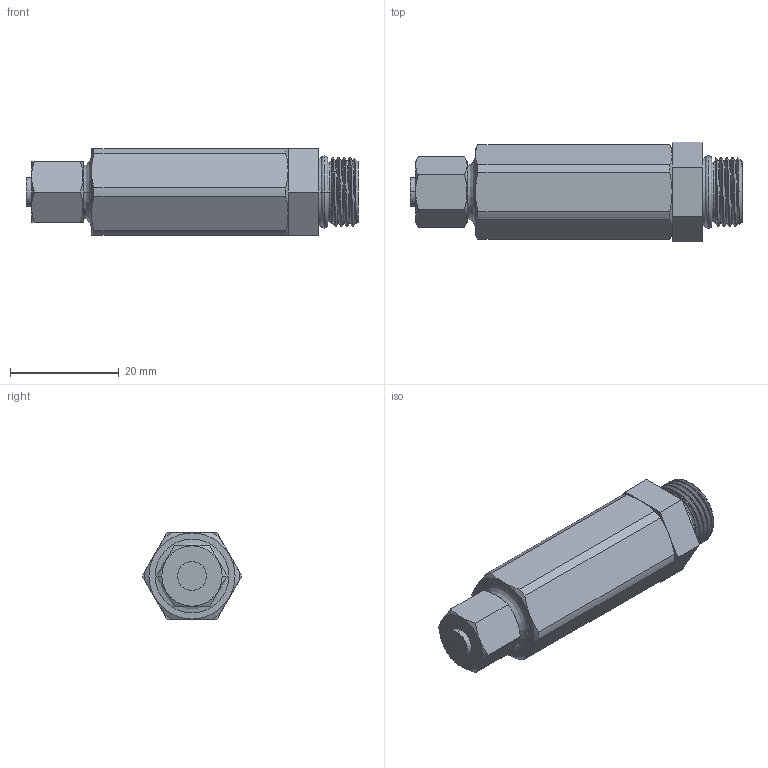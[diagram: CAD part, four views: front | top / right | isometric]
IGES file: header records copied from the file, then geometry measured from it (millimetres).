
Start section:  PTC IGES file: 24z682-en-e.igs
Global section: file name: 24z682-en-e.igs; native system: Creo Parametric by PTC Inc.; preprocessor: 2019030; author: qusrh3; organization: Unknown; date: 20191231.183644; units: inch
Bounding box: 61.19 x 18.33 x 15.88 mm (x, y, z)
Surface area: 4260.9 mm2 (no closed solid volume)
Topology: 0 solids, 0 shells, 77 faces, 354 edges, 354 vertices
Faces by surface type: revolution 45, bspline 32
